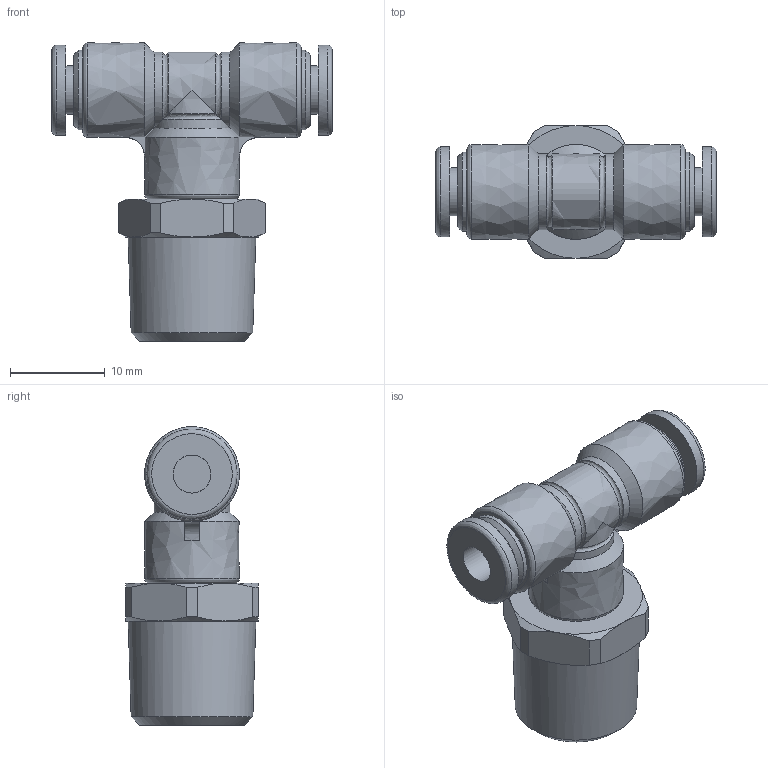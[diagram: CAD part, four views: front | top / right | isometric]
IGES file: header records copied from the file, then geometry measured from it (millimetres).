
Global section: file name: [03] FS4-02MT FS4-02MTW; native system: Autodesk Inventor 2014; preprocessor: unknown; author: kazuhiro.t; date: 20130806.165405; units: millimetre
Bounding box: 29.6 x 14 x 31.5 mm (x, y, z)
Volume: 4336.9 mm3; surface area: 2578.2 mm2
Topology: 1 solids, 1 shells, 86 faces, 202 edges, 128 vertices
Faces by surface type: bspline 86
